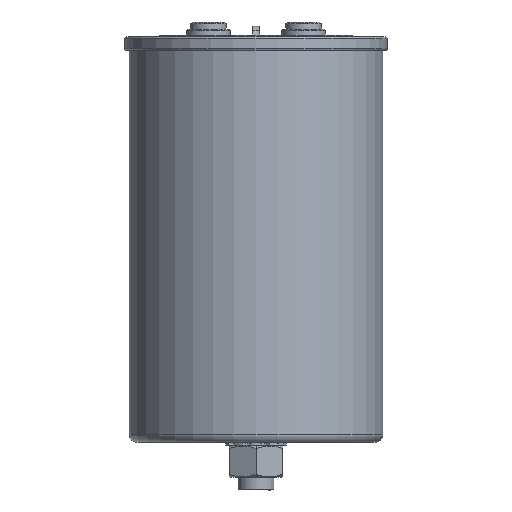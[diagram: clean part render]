
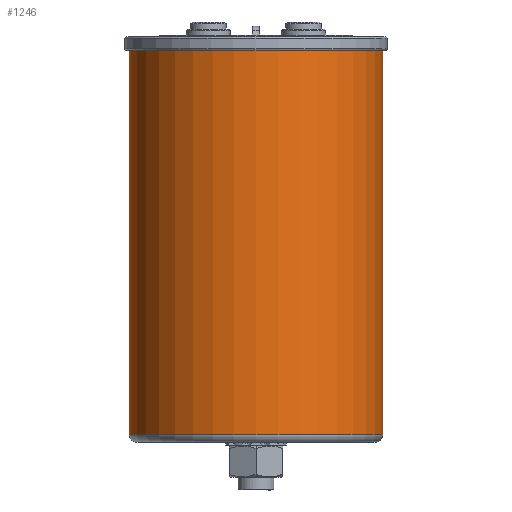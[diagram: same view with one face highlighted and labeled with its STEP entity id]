
A CAD part, left-side view. The second image highlights one B-rep face of the part: STEP entity #1246.
In plain terms, the highlighted cylindrical face has radius 42.5 mm (diameter 85 mm), a partial arc.
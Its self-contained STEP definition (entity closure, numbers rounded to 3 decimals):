
#480 = DIRECTION ( 'NONE',  ( 0., 0., 1. ) ) ;
#687 = VECTOR ( 'NONE', #10187, 1000. ) ;
#1246 = ADVANCED_FACE ( 'NONE', ( #1311 ), #8913, .T. ) ;
#1311 = FACE_OUTER_BOUND ( 'NONE', #7031, .T. ) ;
#1654 = DIRECTION ( 'NONE',  ( 0., 1., 0. ) ) ;
#1718 = CIRCLE ( 'NONE', #14634, 42.5 ) ;
#1810 = LINE ( 'NONE', #3434, #12711 ) ;
#1905 = CIRCLE ( 'NONE', #5117, 42.5 ) ;
#2054 = EDGE_CURVE ( 'NONE', #6106, #12305, #1810, .T. ) ;
#2843 = CARTESIAN_POINT ( 'NONE',  ( 0., 42.5, -129.5 ) ) ;
#3126 = CARTESIAN_POINT ( 'NONE',  ( 0., 42.5, -132. ) ) ;
#3351 = DIRECTION ( 'NONE',  ( 0., 0., -1. ) ) ;
#3434 = CARTESIAN_POINT ( 'NONE',  ( 0., -42.5, -132. ) ) ;
#3840 = EDGE_CURVE ( 'NONE', #12479, #14333, #10866, .T. ) ;
#3911 = ORIENTED_EDGE ( 'NONE', *, *, #2054, .F. ) ;
#5104 = CARTESIAN_POINT ( 'NONE',  ( 0., 0., 0. ) ) ;
#5117 = AXIS2_PLACEMENT_3D ( 'NONE', #5104, #480, #1654 ) ;
#5743 = EDGE_CURVE ( 'NONE', #12479, #6106, #1905, .T. ) ;
#6106 = VERTEX_POINT ( 'NONE', #14305 ) ;
#7013 = CARTESIAN_POINT ( 'NONE',  ( 0., 42.5, 0. ) ) ;
#7031 = EDGE_LOOP ( 'NONE', ( #9315, #8257, #14091, #3911 ) ) ;
#8064 = DIRECTION ( 'NONE',  ( 0., 0., -1. ) ) ;
#8116 = CARTESIAN_POINT ( 'NONE',  ( 0., 0., -129.5 ) ) ;
#8257 = ORIENTED_EDGE ( 'NONE', *, *, #3840, .T. ) ;
#8913 = CYLINDRICAL_SURFACE ( 'NONE', #9851, 42.5 ) ;
#9315 = ORIENTED_EDGE ( 'NONE', *, *, #5743, .F. ) ;
#9851 = AXIS2_PLACEMENT_3D ( 'NONE', #13780, #3351, #12639 ) ;
#10187 = DIRECTION ( 'NONE',  ( 0., 0., -1. ) ) ;
#10866 = LINE ( 'NONE', #3126, #687 ) ;
#12305 = VERTEX_POINT ( 'NONE', #12649 ) ;
#12479 = VERTEX_POINT ( 'NONE', #7013 ) ;
#12639 = DIRECTION ( 'NONE',  ( 0., -1., 0. ) ) ;
#12649 = CARTESIAN_POINT ( 'NONE',  ( 0., -42.5, -129.5 ) ) ;
#12711 = VECTOR ( 'NONE', #8064, 1000. ) ;
#12838 = DIRECTION ( 'NONE',  ( 0., 0., 1. ) ) ;
#13038 = EDGE_CURVE ( 'NONE', #14333, #12305, #1718, .T. ) ;
#13771 = DIRECTION ( 'NONE',  ( 0., -1., 0. ) ) ;
#13780 = CARTESIAN_POINT ( 'NONE',  ( 0., 0., -132. ) ) ;
#14091 = ORIENTED_EDGE ( 'NONE', *, *, #13038, .T. ) ;
#14305 = CARTESIAN_POINT ( 'NONE',  ( 0., -42.5, 0. ) ) ;
#14333 = VERTEX_POINT ( 'NONE', #2843 ) ;
#14634 = AXIS2_PLACEMENT_3D ( 'NONE', #8116, #12838, #13771 ) ;
